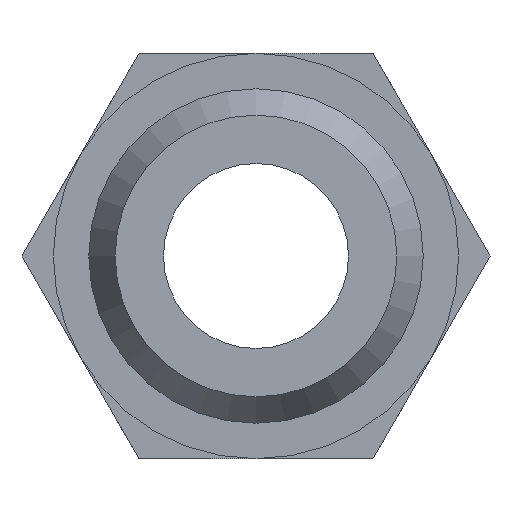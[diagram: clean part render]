
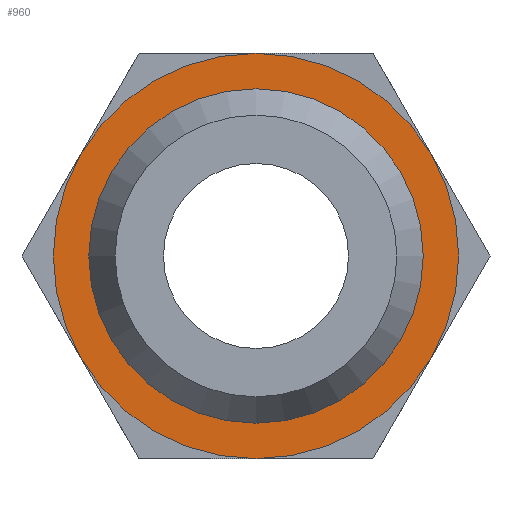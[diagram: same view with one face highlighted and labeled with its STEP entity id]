
A CAD part, front view. The second image highlights one B-rep face of the part: STEP entity #960.
In plain terms, the highlighted planar face has unit normal (0, -1, 0).
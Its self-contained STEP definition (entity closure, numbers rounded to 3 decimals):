
#150=CARTESIAN_POINT('',(6.6,6.5,0.0));
#151=VERTEX_POINT('',#150);
#152=CARTESIAN_POINT('',(0.0,6.5,0.0));
#153=DIRECTION('',(0.0,-1.0,0.0));
#154=DIRECTION('',(1.0,0.0,0.0));
#155=AXIS2_PLACEMENT_3D('',#152,#153,#154);
#156=CIRCLE('',#155,6.6);
#157=EDGE_CURVE('',#151,#151,#156,.T.);
#929=CARTESIAN_POINT('',(8.,6.5,0.0));
#930=VERTEX_POINT('',#929);
#931=CARTESIAN_POINT('',(0.0,6.5,0.0));
#932=DIRECTION('',(0.0,-1.0,0.0));
#933=DIRECTION('',(1.0,0.0,0.0));
#934=AXIS2_PLACEMENT_3D('',#931,#932,#933);
#935=CIRCLE('',#934,8.);
#936=EDGE_CURVE('',#930,#930,#935,.T.);
#949=CARTESIAN_POINT('',(7.3,6.5,0.0));
#950=DIRECTION('',(0.0,-1.0,0.0));
#951=DIRECTION('',(0.0,0.0,-1.0));
#952=AXIS2_PLACEMENT_3D('',#949,#950,#951);
#953=PLANE('',#952);
#954=ORIENTED_EDGE('',*,*,#936,.T.);
#955=EDGE_LOOP('',(#954));
#956=FACE_OUTER_BOUND('',#955,.T.);
#957=ORIENTED_EDGE('',*,*,#157,.F.);
#958=EDGE_LOOP('',(#957));
#959=FACE_BOUND('',#958,.T.);
#960=ADVANCED_FACE('',(#956,#959),#953,.T.);
